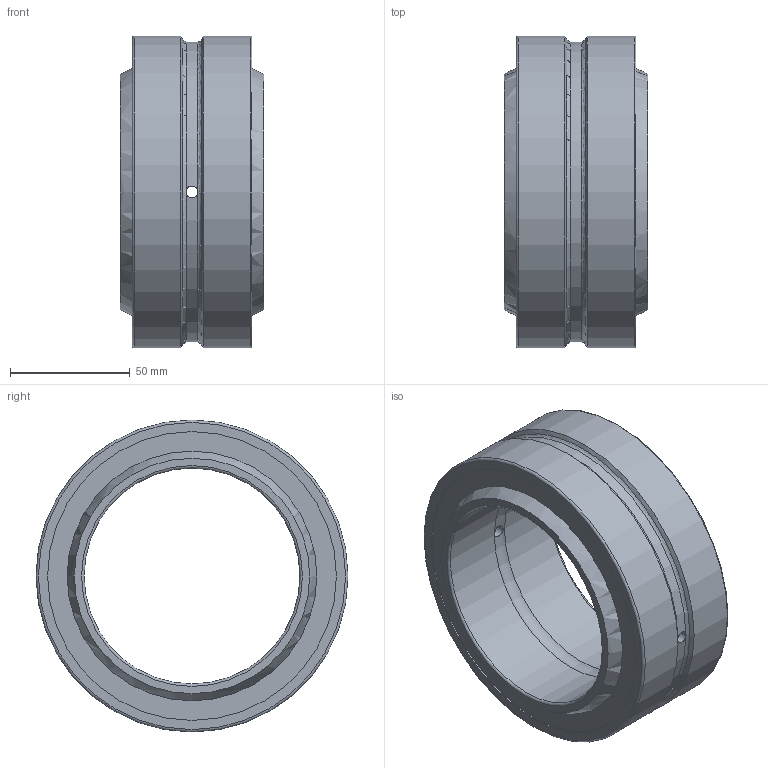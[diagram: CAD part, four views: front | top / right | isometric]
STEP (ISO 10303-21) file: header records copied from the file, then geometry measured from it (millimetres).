
FILE_DESCRIPTION(/* description */ (''),/* implementation_level */ '2;1');
FILE_NAME(/* name */ 'D:\moje\parametrické\GE--E-2RS\GE--E-2RS\GE90E-2RS.stp',/* time_stamp */ '2016-08-17T13:38:55+02:00',/* author */ ('OUBALASKO'),/* organization */ (''),/* preprocessor_version */ 'ST-DEVELOPER v15.6',/* originating_system */ 'Autodesk Inventor 2015',/* authorisation */ '');
FILE_SCHEMA (('AUTOMOTIVE_DESIGN { 1 0 10303 214 3 1 1 }'));
Length unit declared in the file: millimetre
Products named in the file (4): GE90E-2RS-02; GE90E-2RS-01; GE90E-2RS-RS; GE90E-2RS
Assembly tree (4 placements, depth 2):
  GE90E-2RS
    GE90E-2RS-02
    GE90E-2RS-01
    GE90E-2RS-RS  x2
Bounding box: 60 x 130 x 130 mm (x, y, z)
Volume: 349088.5 mm3; surface area: 105695.5 mm2
Topology: 4 solids, 4 shells, 39 faces, 87 edges, 58 vertices
Faces by surface type: cylinder 14, plane 10, torus 8, sphere 5, cone 2
Full cylindrical faces by diameter (mm): 5 x4, 90 x2, 120.319 x4, 130 x2
Entity records: 1168 total; most frequent: CARTESIAN_POINT 405, DIRECTION 154, ORIENTED_EDGE 96, AXIS2_PLACEMENT_3D 77, EDGE_LOOP 74, EDGE_CURVE 48, VERTEX_POINT 44, FACE_BOUND 40
